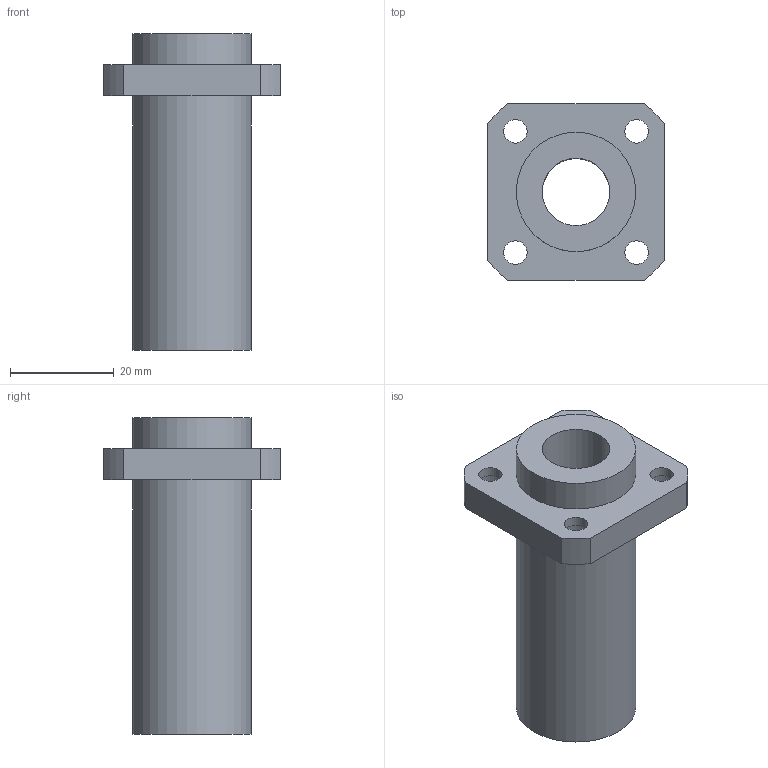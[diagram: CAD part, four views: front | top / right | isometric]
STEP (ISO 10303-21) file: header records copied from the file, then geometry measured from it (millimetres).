
FILE_DESCRIPTION(/* description */ (''),/* implementation_level */ '2;1');
FILE_NAME(/* name */ 'LMKP13LUU',/* time_stamp */ '2019-07-10T14:02:19+02:00',/* author */ ('VĂ©gh MĂˇtĂ©'),/* organization */ ('Bearing Kft'),/* preprocessor_version */ 'ST-DEVELOPER v16.7',/* originating_system */ 'DEX',/* authorisation */ $);
FILE_SCHEMA (('AUTOMOTIVE_DESIGN {1 0 10303 214 3 1 1}'));
Length unit declared in the file: millimetre
Products named in the file (1): LMKP13LUU
Bounding box: 34 x 34 x 61 mm (x, y, z)
Volume: 20682.2 mm3; surface area: 9600.8 mm2
Topology: 1 solids, 1 shells, 348 faces, 880 edges, 588 vertices
Faces by surface type: plane 266, bspline 64, cylinder 18
Full cylindrical faces by diameter (mm): 4.5 x4, 7.5 x4, 13 x1, 23 x2
Entity records: 12988 total; most frequent: CARTESIAN_POINT 5007, ORIENTED_EDGE 1728, DIRECTION 1342, EDGE_CURVE 864, LINE 700, VECTOR 700, VERTEX_POINT 584, EDGE_LOOP 424
